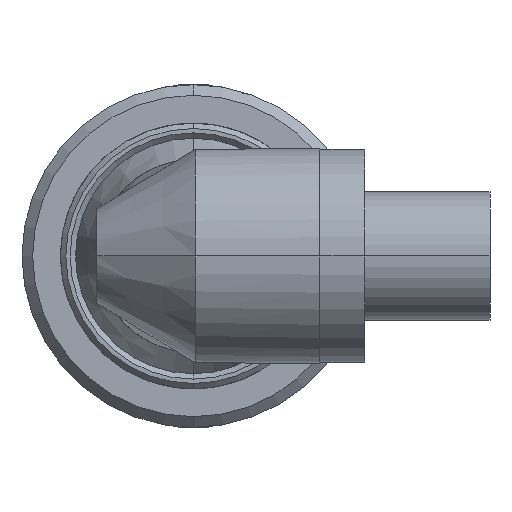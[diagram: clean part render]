
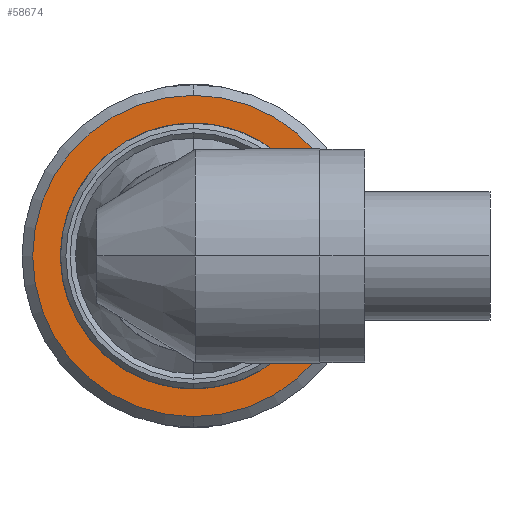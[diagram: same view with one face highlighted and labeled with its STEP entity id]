
A CAD part, left-side view. The second image highlights one B-rep face of the part: STEP entity #58674.
In plain terms, the highlighted planar face has unit normal (-1, 0, 0).
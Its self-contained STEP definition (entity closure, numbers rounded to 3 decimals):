
#6479 = PLANE ( 'NONE',  #105002 ) ;
#6919 = AXIS2_PLACEMENT_3D ( 'NONE', #107051, #51863, #35993 ) ;
#7255 = AXIS2_PLACEMENT_3D ( 'NONE', #10494, #149842, #133954 ) ;
#10494 = CARTESIAN_POINT ( 'NONE',  ( 34.193, 24.033, 0. ) ) ;
#25413 = VERTEX_POINT ( 'NONE', #142532 ) ;
#27859 = CARTESIAN_POINT ( 'NONE',  ( 34.193, 24.033, -15. ) ) ;
#29234 = VERTEX_POINT ( 'NONE', #140841 ) ;
#35993 = DIRECTION ( 'NONE',  ( 0., 0., -1. ) ) ;
#38823 = DIRECTION ( 'NONE',  ( 0., 0., -1. ) ) ;
#44908 = FACE_OUTER_BOUND ( 'NONE', #94297, .T. ) ;
#47891 = ORIENTED_EDGE ( 'NONE', *, *, #117781, .T. ) ;
#51863 = DIRECTION ( 'NONE',  ( 1., 0., 0. ) ) ;
#54689 = DIRECTION ( 'NONE',  ( -1., 0., 0. ) ) ;
#57299 = CIRCLE ( 'NONE', #77641, 15. ) ;
#58674 = ADVANCED_FACE ( 'NONE', ( #44908, #96952 ), #6479, .F. ) ;
#60550 = CIRCLE ( 'NONE', #145940, 11.85 ) ;
#70583 = CARTESIAN_POINT ( 'NONE',  ( 34.193, 24.033, 0. ) ) ;
#72538 = CIRCLE ( 'NONE', #6919, 11.85 ) ;
#72734 = CARTESIAN_POINT ( 'NONE',  ( 34.193, 24.033, 11.85 ) ) ;
#77641 = AXIS2_PLACEMENT_3D ( 'NONE', #70583, #54689, #38823 ) ;
#83308 = ORIENTED_EDGE ( 'NONE', *, *, #115458, .T. ) ;
#83843 = VERTEX_POINT ( 'NONE', #72734 ) ;
#94297 = EDGE_LOOP ( 'NONE', ( #83308, #109423 ) ) ;
#96952 = FACE_BOUND ( 'NONE', #127850, .T. ) ;
#98438 = EDGE_CURVE ( 'NONE', #25413, #118321, #121741, .T. ) ;
#105002 = AXIS2_PLACEMENT_3D ( 'NONE', #145838, #129937, #114001 ) ;
#106421 = DIRECTION ( 'NONE',  ( 0., 0., -1. ) ) ;
#107051 = CARTESIAN_POINT ( 'NONE',  ( 34.193, 24.033, 0. ) ) ;
#107275 = ORIENTED_EDGE ( 'NONE', *, *, #146519, .T. ) ;
#109423 = ORIENTED_EDGE ( 'NONE', *, *, #98438, .T. ) ;
#114001 = DIRECTION ( 'NONE',  ( 0., 0., -1. ) ) ;
#115458 = EDGE_CURVE ( 'NONE', #118321, #25413, #57299, .T. ) ;
#117781 = EDGE_CURVE ( 'NONE', #83843, #29234, #60550, .T. ) ;
#118321 = VERTEX_POINT ( 'NONE', #27859 ) ;
#121741 = CIRCLE ( 'NONE', #7255, 15. ) ;
#122387 = DIRECTION ( 'NONE',  ( 1., 0., 0. ) ) ;
#127850 = EDGE_LOOP ( 'NONE', ( #107275, #47891 ) ) ;
#129937 = DIRECTION ( 'NONE',  ( 1., 0., 0. ) ) ;
#133954 = DIRECTION ( 'NONE',  ( 0., 0., -1. ) ) ;
#138253 = CARTESIAN_POINT ( 'NONE',  ( 34.193, 24.033, 0. ) ) ;
#140841 = CARTESIAN_POINT ( 'NONE',  ( 34.193, 24.033, -11.85 ) ) ;
#142532 = CARTESIAN_POINT ( 'NONE',  ( 34.193, 24.033, 15. ) ) ;
#145838 = CARTESIAN_POINT ( 'NONE',  ( 34.193, 40.033, 0. ) ) ;
#145940 = AXIS2_PLACEMENT_3D ( 'NONE', #138253, #122387, #106421 ) ;
#146519 = EDGE_CURVE ( 'NONE', #29234, #83843, #72538, .T. ) ;
#149842 = DIRECTION ( 'NONE',  ( -1., 0., 0. ) ) ;
